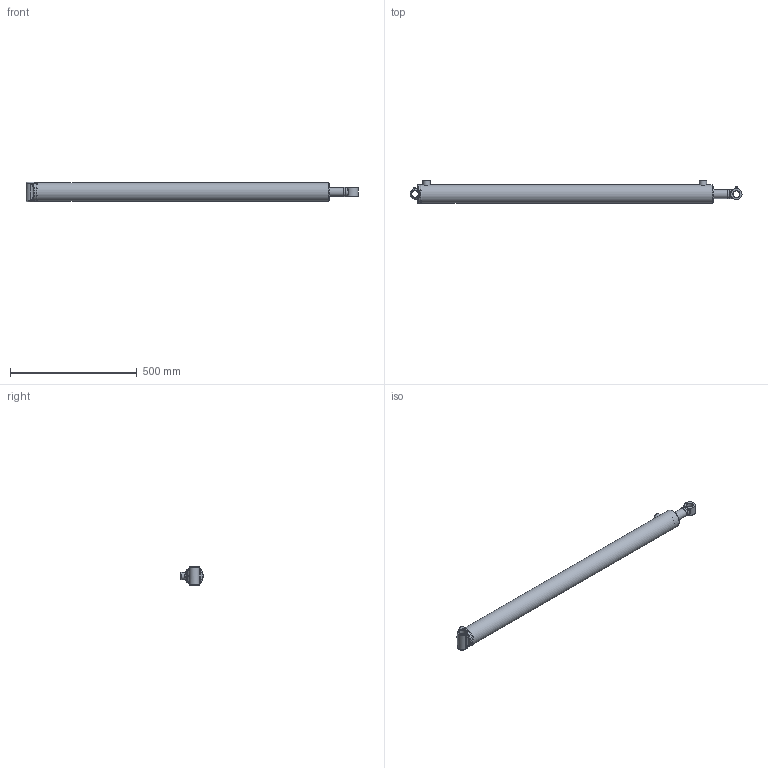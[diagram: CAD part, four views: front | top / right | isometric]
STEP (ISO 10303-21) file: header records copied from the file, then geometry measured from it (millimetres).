
FILE_DESCRIPTION(/* description */ ('Ø2.50 X 42.00 DA'),/* implementation_level */ '2;1');
FILE_NAME(/* name */ 'result.stp',/* time_stamp */ '2024-03-14T12:26:59Z',/* author */ ('AJC'),/* organization */ ('PRINCE MANUFACTURING'),/* preprocessor_version */ 'ST-DEVELOPER v20',/* originating_system */ 'Autodesk Inventor 2024',/* authorisation */ '');
FILE_SCHEMA (('AUTOMOTIVE_DESIGN { 1 0 10303 214 3 1 1 }'));
Length unit declared in the file: inch
Products named in the file (21): PC2542013A00-500XYXA; 0613-XYSF000-45237; 0513-T-45237; 161300230; 200015602; 06Weld1_C360; 0713-P-075; 220000208; 0813-G-138; 230025103; 230025003; 240000018; 240061330; 240000330; 0207A-FAW0-48250XA; 0107A-FAW0-48250; 210400812; 02Weld_C360; 240037106; 250014137; 270010020
Assembly tree (22 placements, depth 3):
  PC2542013A00-500XYXA
    0613-XYSF000-45237
      0513-T-45237
      161300230
      200015602  x2
      06Weld1_C360
    0713-P-075
    220000208
    0813-G-138
    230025103
    230025003
    240000018
    240061330
    240000330
    0207A-FAW0-48250XA
      0107A-FAW0-48250
      210400812
      02Weld_C360
    240037106
    250014137
    270010020  x2
Bounding box: 1311.71 x 91.34 x 76.2 mm (x, y, z)
Volume: 2633552.4 mm3; surface area: 745909.2 mm2
Topology: 25 solids, 25 shells, 554 faces, 1338 edges, 857 vertices
Faces by surface type: bspline 155, plane 140, torus 86, cone 86, cylinder 83, sphere 4
Full cylindrical faces by diameter (mm): 2.143 x4, 3.175 x1, 5.359 x2, 6.35 x2, 9.525 x2, 12.649 x1, 12.7 x1, 12.725 x1, 17.323 x3, 18.999 x1, 19.126 x1, 21.615 x1, 25.781 x2, 28.575 x2, 34.925 x1, 35.001 x2, 35.56 x2, 36.957 x1, 40.64 x1, 41.3 x1, 44.45 x1, 46.101 x2, 47.625 x2, 50.8 x2, 54.077 x2, 54.813 x2, 59.931 x2, 60.071 x1, 60.096 x4, 62.886 x2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
Entity records: 32494 total; most frequent: CARTESIAN_POINT 20016, ORIENTED_EDGE 2458, DIRECTION 2131, EDGE_CURVE 1229, AXIS2_PLACEMENT_3D 894, VERTEX_POINT 796, EDGE_LOOP 589, FACE_OUTER_BOUND 510
